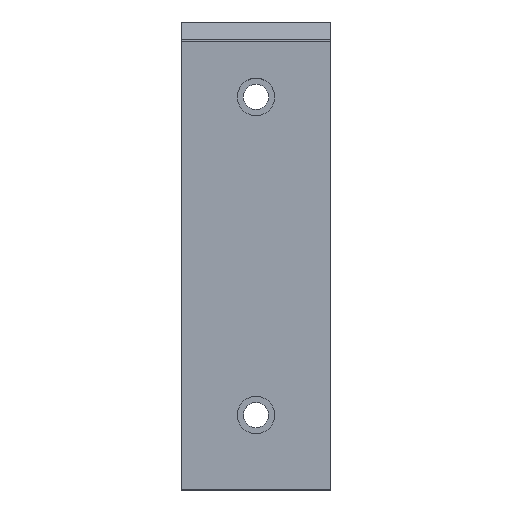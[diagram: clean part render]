
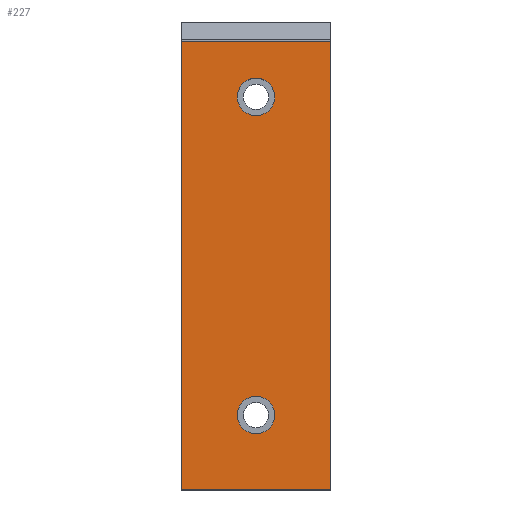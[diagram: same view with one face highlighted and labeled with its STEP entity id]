
A CAD part, top view. The second image highlights one B-rep face of the part: STEP entity #227.
In plain terms, the highlighted planar face has unit normal (0, 0, 1).
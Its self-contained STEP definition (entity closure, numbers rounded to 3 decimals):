
#10 = EDGE_CURVE ( 'NONE', #209, #396, #67, .T. ) ;
#16 = CARTESIAN_POINT ( 'NONE',  ( -40., 40., 20. ) ) ;
#18 = EDGE_CURVE ( 'NONE', #27, #75, #349, .T. ) ;
#25 = CARTESIAN_POINT ( 'NONE',  ( 0., 239.342, 20. ) ) ;
#27 = VERTEX_POINT ( 'NONE', #25 ) ;
#35 = CARTESIAN_POINT ( 'NONE',  ( -40., 239.342, 20. ) ) ;
#49 = CARTESIAN_POINT ( 'NONE',  ( 0., 0., 20. ) ) ;
#67 = CIRCLE ( 'NONE', #212, 10. ) ;
#70 = ORIENTED_EDGE ( 'NONE', *, *, #355, .F. ) ;
#75 = VERTEX_POINT ( 'NONE', #292 ) ;
#108 = DIRECTION ( 'NONE',  ( -1., 0., 0. ) ) ;
#117 = FACE_BOUND ( 'NONE', #599, .T. ) ;
#121 = CARTESIAN_POINT ( 'NONE',  ( -50., 40., 20. ) ) ;
#124 = ORIENTED_EDGE ( 'NONE', *, *, #535, .F. ) ;
#148 = CIRCLE ( 'NONE', #457, 10. ) ;
#166 = CARTESIAN_POINT ( 'NONE',  ( -80., 119.671, 20. ) ) ;
#174 = DIRECTION ( 'NONE',  ( 0., 0., 1. ) ) ;
#183 = LINE ( 'NONE', #166, #493 ) ;
#186 = VERTEX_POINT ( 'NONE', #385 ) ;
#188 = VERTEX_POINT ( 'NONE', #286 ) ;
#195 = EDGE_CURVE ( 'NONE', #75, #188, #485, .T. ) ;
#206 = LINE ( 'NONE', #35, #545 ) ;
#209 = VERTEX_POINT ( 'NONE', #272 ) ;
#212 = AXIS2_PLACEMENT_3D ( 'NONE', #518, #329, #513 ) ;
#224 = EDGE_LOOP ( 'NONE', ( #438, #608, #483, #520 ) ) ;
#227 = ADVANCED_FACE ( 'NONE', ( #479, #541, #117 ), #317, .T. ) ;
#238 = EDGE_CURVE ( 'NONE', #27, #186, #206, .T. ) ;
#253 = EDGE_LOOP ( 'NONE', ( #124, #70 ) ) ;
#261 = DIRECTION ( 'NONE',  ( 1., 0., 0. ) ) ;
#272 = CARTESIAN_POINT ( 'NONE',  ( -30., 40., 20. ) ) ;
#286 = CARTESIAN_POINT ( 'NONE',  ( -80., 0., 20. ) ) ;
#292 = CARTESIAN_POINT ( 'NONE',  ( 0., 0., 20. ) ) ;
#301 = DIRECTION ( 'NONE',  ( 0., 0., 1. ) ) ;
#311 = CARTESIAN_POINT ( 'NONE',  ( -40., 210., 20. ) ) ;
#317 = PLANE ( 'NONE',  #417 ) ;
#323 = CARTESIAN_POINT ( 'NONE',  ( -40., 210., 20. ) ) ;
#329 = DIRECTION ( 'NONE',  ( 0., 0., 1. ) ) ;
#348 = EDGE_CURVE ( 'NONE', #186, #188, #183, .T. ) ;
#349 = LINE ( 'NONE', #456, #475 ) ;
#355 = EDGE_CURVE ( 'NONE', #522, #576, #392, .T. ) ;
#381 = AXIS2_PLACEMENT_3D ( 'NONE', #311, #591, #261 ) ;
#383 = DIRECTION ( 'NONE',  ( -1., 0., 0. ) ) ;
#385 = CARTESIAN_POINT ( 'NONE',  ( -80., 239.342, 20. ) ) ;
#392 = CIRCLE ( 'NONE', #381, 10. ) ;
#393 = CARTESIAN_POINT ( 'NONE',  ( -30., 210., 20. ) ) ;
#396 = VERTEX_POINT ( 'NONE', #121 ) ;
#414 = DIRECTION ( 'NONE',  ( 0., -1., 0. ) ) ;
#417 = AXIS2_PLACEMENT_3D ( 'NONE', #49, #174, #423 ) ;
#423 = DIRECTION ( 'NONE',  ( 1., 0., 0. ) ) ;
#430 = CIRCLE ( 'NONE', #564, 10. ) ;
#438 = ORIENTED_EDGE ( 'NONE', *, *, #348, .T. ) ;
#451 = ORIENTED_EDGE ( 'NONE', *, *, #463, .F. ) ;
#456 = CARTESIAN_POINT ( 'NONE',  ( 0., 119.671, 20. ) ) ;
#457 = AXIS2_PLACEMENT_3D ( 'NONE', #323, #604, #558 ) ;
#463 = EDGE_CURVE ( 'NONE', #396, #209, #430, .T. ) ;
#475 = VECTOR ( 'NONE', #507, 1000. ) ;
#479 = FACE_OUTER_BOUND ( 'NONE', #224, .T. ) ;
#483 = ORIENTED_EDGE ( 'NONE', *, *, #18, .F. ) ;
#485 = LINE ( 'NONE', #569, #605 ) ;
#493 = VECTOR ( 'NONE', #414, 1000. ) ;
#507 = DIRECTION ( 'NONE',  ( 0., -1., 0. ) ) ;
#509 = ORIENTED_EDGE ( 'NONE', *, *, #10, .F. ) ;
#513 = DIRECTION ( 'NONE',  ( 1., 0., 0. ) ) ;
#518 = CARTESIAN_POINT ( 'NONE',  ( -40., 40., 20. ) ) ;
#520 = ORIENTED_EDGE ( 'NONE', *, *, #238, .T. ) ;
#522 = VERTEX_POINT ( 'NONE', #393 ) ;
#535 = EDGE_CURVE ( 'NONE', #576, #522, #148, .T. ) ;
#541 = FACE_BOUND ( 'NONE', #253, .T. ) ;
#544 = CARTESIAN_POINT ( 'NONE',  ( -50., 210., 20. ) ) ;
#545 = VECTOR ( 'NONE', #383, 1000. ) ;
#558 = DIRECTION ( 'NONE',  ( 1., 0., 0. ) ) ;
#564 = AXIS2_PLACEMENT_3D ( 'NONE', #16, #301, #581 ) ;
#569 = CARTESIAN_POINT ( 'NONE',  ( -40., 0., 20. ) ) ;
#576 = VERTEX_POINT ( 'NONE', #544 ) ;
#581 = DIRECTION ( 'NONE',  ( 1., 0., 0. ) ) ;
#591 = DIRECTION ( 'NONE',  ( 0., 0., 1. ) ) ;
#599 = EDGE_LOOP ( 'NONE', ( #451, #509 ) ) ;
#604 = DIRECTION ( 'NONE',  ( 0., 0., 1. ) ) ;
#605 = VECTOR ( 'NONE', #108, 1000. ) ;
#608 = ORIENTED_EDGE ( 'NONE', *, *, #195, .F. ) ;
